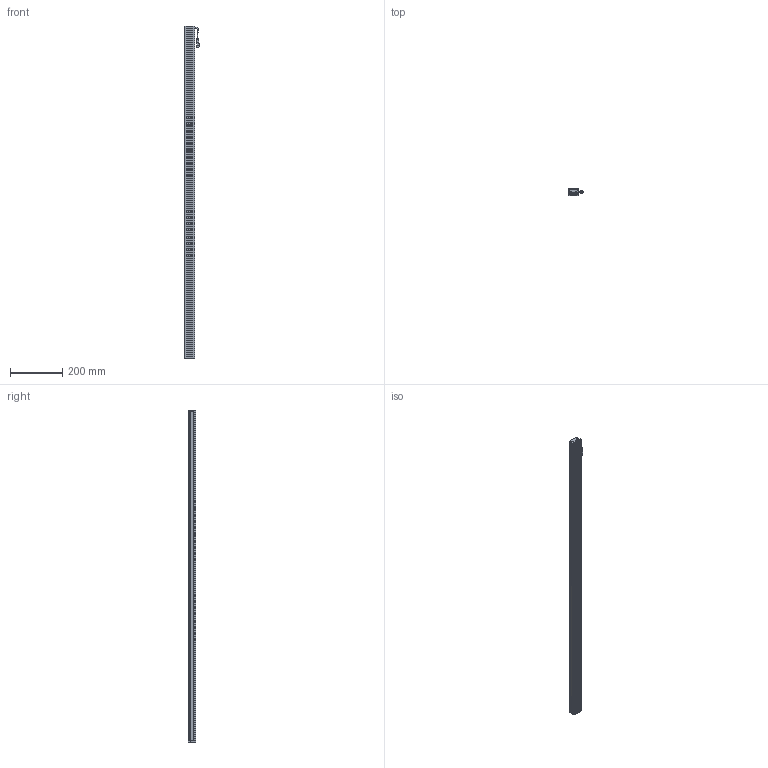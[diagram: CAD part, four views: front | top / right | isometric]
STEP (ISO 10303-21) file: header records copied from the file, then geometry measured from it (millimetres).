
FILE_DESCRIPTION (( 'STEP AP203' ), '1' );
FILE_NAME ('CK-BL127238.STEP', '2026-01-29T09:24:27', ( '' ), ( '' ), 'SwSTEP 2.0', 'SolidWorks 2022', '' );
FILE_SCHEMA (( 'CONFIG_CONTROL_DESIGN' ));
Length unit declared in the file: millimetre
Products named in the file (6): CK127238-001A; 十字沉头螺丝 M2x10; CK-BL127238-002A; CK-BL127238; CK-BL127238-003A; 光源线
Assembly tree (11 placements, depth 2):
  CK-BL127238
    CK127238-001A
    CK-BL127238-002A  x2
    CK-BL127238-003A
    光源线
    十字沉头螺丝 M2x10  x6
Bounding box: 55.84 x 27 x 1272 mm (x, y, z)
Volume: 510031.9 mm3; surface area: 439347.4 mm2
Topology: 13 solids, 13 shells, 641 faces, 1692 edges, 1082 vertices
Faces by surface type: plane 353, cylinder 210, cone 46, bspline 32
Entity records: 16373 total; most frequent: CARTESIAN_POINT 3399, ORIENTED_EDGE 2598, DIRECTION 2515, EDGE_CURVE 1299, LINE 875, VECTOR 875, VERTEX_POINT 846, AXIS2_PLACEMENT_3D 820
